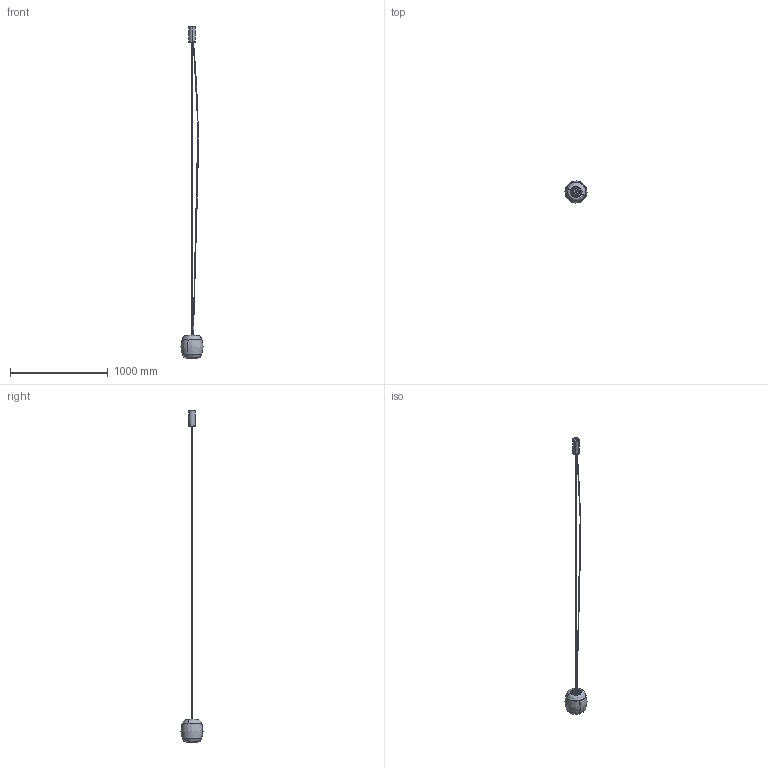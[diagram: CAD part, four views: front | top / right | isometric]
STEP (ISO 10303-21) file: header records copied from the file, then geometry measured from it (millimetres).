
FILE_DESCRIPTION(/* description */ (''),/* implementation_level */ '2;1');
FILE_NAME(/* name */ 'L181__.023',/* time_stamp */ '2025-05-16T09:13:09+02:00',/* author */ (''),/* organization */ (''),/* preprocessor_version */ 'ST-DEVELOPER v16.5',/* originating_system */ '',/* authorisation */ '');
FILE_SCHEMA (('AUTOMOTIVE_DESIGN'));
Length unit declared in the file: millimetre
Products named in the file (30): Document; 3500.0033000.00 (schermo ovale VETRO sp 7 con decoro molato)_3512.003
3023.00; Blocco 76; 3200.00881000.00 (piattello chiusura ACC Ø 102mm sp 2)_3201.08810
02.00; Blocco 67; 3300.0116000.00 (testa cilindrica ALL D 101mm H 10mm)_3306.0116003.00; Blocco 77; 3100.0112000.00 (schermo anello PMMA Ø est. 100,4mm Ø int. 48
mm sp 3)_3101.0112000.00; Blocco 55; 3300.0121000.00 (piattello di chiusura ALL D 64mm sp 1,2)_Rev.01_3305.
0121002.00; Blocco 53; 3300.0537000.00 (tubo sospensione OTTONE Ø 6mm sp 1)_3307.0537013.
00; Blocco 03; Cavo alimentazione; Blocco 61; 5402.0001000.00 (fune ACC 19 fili D 1,2mm con cilindro terminale 3x3m
m)_5402.0001300.00; Blocco 56; 3200.0877000.00 (staffa rosone ACC Ø 60,7mm H 160,7mm sp 1,2)_321
0.0877002.00; 3200.0875000.00 (staffa rosone ACC 60x55,8x161,7mm sp 1,2)_3209.08750
16.00; Blocco 51; 3200.0880000.00 (testata rosone 2 fori ACC Ø 60,7mm sp 1,2)_3201.
0876000.00; Blocco 58; 3300.0530000.00 (tubo rosone ALL Ø 65mm sp 2)_3306.0530016.00; Blocco 04; 5205.0001010.00 (raccordo fresato OTTONE D 12mm sp 3 gambo H 10mm M10
x1 Sacla 13501)_5205.0001010.00; Blocco 54; 5200.0002000.00 (dispositivo regolazione fune OTTONE nichelato con in
nesto maschio M10 L 14mm)_5200.0002000.00; Blocco 68; Blocco 69; Blocco 70
Assembly tree (29 placements, depth 4):
  Document
    3500.0033000.00 (schermo ovale VETRO sp 7 con decoro molato)_3512.003
3023.00
      Blocco 76
    3200.00881000.00 (piattello chiusura ACC Ø 102mm sp 2)_3201.08810
02.00
      Blocco 67
    3300.0116000.00 (testa cilindrica ALL D 101mm H 10mm)_3306.0116003.00
      Blocco 77
    3100.0112000.00 (schermo anello PMMA Ø est. 100,4mm Ø int. 48
mm sp 3)_3101.0112000.00
      Blocco 55
    3300.0121000.00 (piattello di chiusura ALL D 64mm sp 1,2)_Rev.01_3305.
0121002.00
      Blocco 53
    3300.0537000.00 (tubo sospensione OTTONE Ø 6mm sp 1)_3307.0537013.
00
      Blocco 03
    Cavo alimentazione
      Blocco 61
    5402.0001000.00 (fune ACC 19 fili D 1,2mm con cilindro terminale 3x3m
m)_5402.0001300.00
      Blocco 56
    3200.0877000.00 (staffa rosone ACC Ø 60,7mm H 160,7mm sp 1,2)_321
0.0877002.00
      3200.0875000.00 (staffa rosone ACC 60x55,8x161,7mm sp 1,2)_3209.08750
16.00
        Blocco 51
      3200.0880000.00 (testata rosone 2 fori ACC Ø 60,7mm sp 1,2)_3201.
0876000.00
        Blocco 58
    3300.0530000.00 (tubo rosone ALL Ø 65mm sp 2)_3306.0530016.00
      Blocco 04
    5205.0001010.00 (raccordo fresato OTTONE D 12mm sp 3 gambo H 10mm M10
x1 Sacla 13501)_5205.0001010.00
      Blocco 54
    5200.0002000.00 (dispositivo regolazione fune OTTONE nichelato con in
nesto maschio M10 L 14mm)_5200.0002000.00
      Blocco 68
      Blocco 69
      Blocco 70
Bounding box: 224.99 x 224.77 x 3387.9 mm (x, y, z)
Surface area: 555862 mm2 (no closed solid volume)
Topology: 0 solids, 794 shells, 794 faces, 4224 edges, 4220 vertices
Faces by surface type: bspline 613, plane 181
Entity records: 80497 total; most frequent: CARTESIAN_POINT 59530, ORIENTED_EDGE 4220, EDGE_CURVE 4220, VERTEX_POINT 4220, B_SPLINE_CURVE_WITH_KNOTS 1942, EDGE_LOOP 921, PRESENTATION_LAYER_ASSIGNMENT 794, SHELL_BASED_SURFACE_MODEL 794
